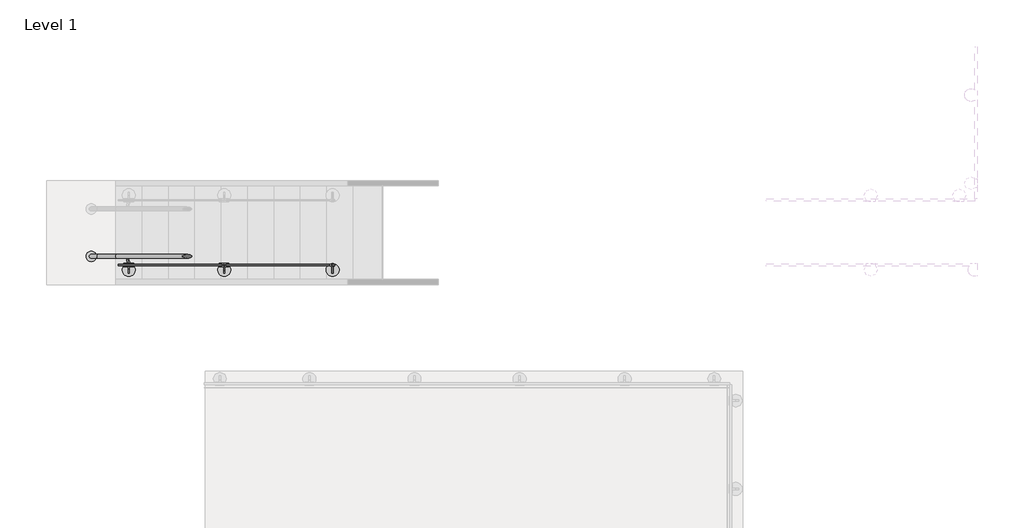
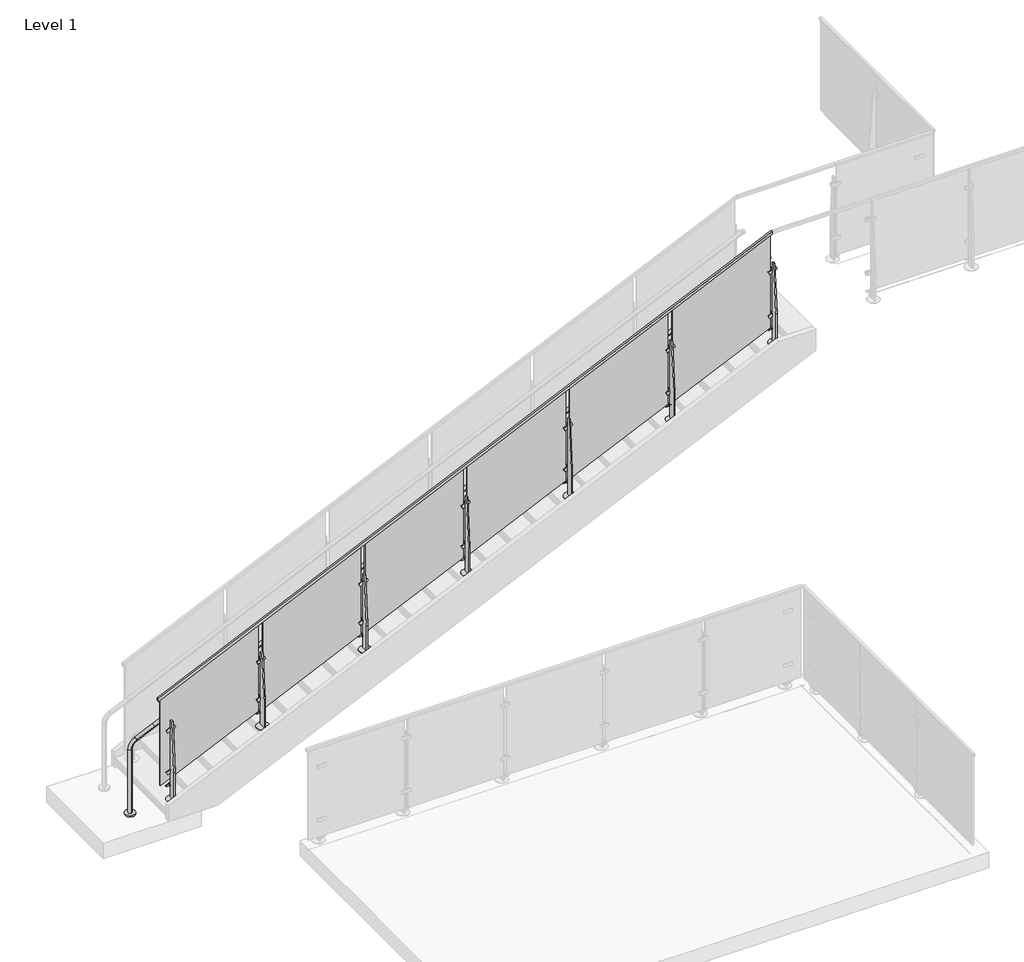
# One storey, part 2 of 37: 1 railing.
"""IFC4 building model written with IfcOpenShell, lengths in millimetres."""

from ifc_helpers import new_model, si_unit, point, frame, frame_2d, origin, place, context, project, spatial, polyline, circle_curve, ellipse_curve, trimmed, segment, composite_curve, outline, extrude, faceted_brep, element, save
from ifc_brep_helpers import plane_surface, cylinder_surface, revolved_surface, advanced_brep

model = new_model("IFC4")

# Units and contexts
model_context = context("Model", 3, world=origin())
ifc_project = project(units=[si_unit("LENGTHUNIT", "METRE", prefix="MILLI")], contexts=[model_context])

# Site, building, storey
site = spatial("IfcSite", under=ifc_project)
building = spatial("IfcBuilding", under=site)
storey = spatial("IfcBuildingStorey", under=building, Name="Level 1", Elevation=0.0)

# Railing
placement = place(None, origin())
element("IfcRailing", 1, ObjectType="VIVA-SOLO-Glass-Core Mount-Stair", at=placement, inside=storey, context=model_context, shape_type="SolidModel", body=[
    extrude(outline(composite_curve([segment(trimmed(circle_curve(frame_2d((-14041.513319, -5473.1403686)), 50.8), [point((-14041.513319, -5422.3403686))], [point((-14041.513319, -5523.9403686))], False, "CARTESIAN"), True, "CONTINUOUS"), segment(trimmed(circle_curve(frame_2d((-14041.513319, -5473.1403686)), 50.8), [point((-14041.513319, -5523.9403686))], [point((-14041.513319, -5422.3403686))], False, "CARTESIAN"), True, "CONTINUOUS")], self_intersect=False)), frame((0.0, 0.0, -1.27), z_axis=(0.0, 0.0, 1.0), x_axis=(1.0, 0.0, 0.0)), (0.0, 0.0, 1.0), 19.05),
    advanced_brep(
    [(-13794.8678976, -5454.0903686, 886.82742), (-13794.8678976, -5492.1903686, 886.82742), (-7435.9254905, -5492.1903686, 3778.351061), (-7435.9254905, -5454.0903686, 3778.351061), (-14041.513319, -5492.1903686, 17.78), (-14041.513319, -5454.0903686, 17.78), (-14041.513319, -5492.1903686, 709.2620511), (-14041.513319, -5454.0903686, 709.2620511), (-13981.9689001, -5454.0903686, 801.7492832), (-13981.9689001, -5492.1903686, 801.7492832), (-7414.4484971, -5492.1903686, 3778.351061), (-7414.4484971, -5454.0903686, 3778.351061)],
    [
        (0, 1, circle_curve(frame((-13794.8678976, -5473.1403686, 886.82742), z_axis=(0.9103074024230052, 0.0, 0.41393288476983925), x_axis=(0.0, 1.0, 0.0)), 19.05)),
        (1, 2),
        (2, 3, ellipse_curve(frame((-7435.9254905, -5473.1403686, 3778.351061), z_axis=(-0.9773196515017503, 0.0, -0.21176944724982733), x_axis=(0.21176944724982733, 0.0, -0.9773196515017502)), 19.4920873, 19.05)),
        (3, 0),
        (1, 0, circle_curve(frame((-13794.8678976, -5473.1403686, 886.82742), z_axis=(0.9103074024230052, 0.0, 0.41393288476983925), x_axis=(0.0, 1.0, 0.0)), 19.05)),
        (3, 2, ellipse_curve(frame((-7435.9254905, -5473.1403686, 3778.351061), z_axis=(-0.9773196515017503, 0.0, -0.21176944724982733), x_axis=(0.21176944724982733, 0.0, -0.9773196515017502)), 19.4920873, 19.05)),
        (4, 5, circle_curve(frame((-14041.513319, -5473.1403686, 17.78), z_axis=(0.0, 0.0, -1.0), x_axis=(0.0, 1.0, 0.0)), 19.05)),
        (5, 4, circle_curve(frame((-14041.513319, -5473.1403686, 17.78), z_axis=(0.0, 0.0, -1.0), x_axis=(0.0, 1.0, 0.0)), 19.05)),
        (4, 6),
        (6, 7, circle_curve(frame((-14041.513319, -5473.1403686, 709.2620511), z_axis=(0.0, 0.0, -1.0), x_axis=(0.0, 1.0, 0.0)), 19.05)),
        (7, 5),
        (7, 6, circle_curve(frame((-14041.513319, -5473.1403686, 709.2620511), z_axis=(0.0, 0.0, -1.0), x_axis=(0.0, 1.0, 0.0)), 19.05)),
        (8, 7, circle_curve(frame((-13939.913319, -5454.0903686, 709.2620511), z_axis=(0.0, -1.0, 0.0), x_axis=(-1.0, 0.0, 0.0)), 101.6)),
        (6, 9, circle_curve(frame((-13939.913319, -5492.1903686, 709.2620511), z_axis=(0.0, 1.0, 0.0), x_axis=(-1.0, 0.0, 0.0)), 101.6)),
        (9, 8, circle_curve(frame((-13981.9689001, -5473.1403686, 801.7492832), z_axis=(-0.9103074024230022, 0.0, -0.4139328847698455), x_axis=(0.0, 1.0, 0.0)), 19.05)),
        (8, 9, circle_curve(frame((-13981.9689001, -5473.1403686, 801.7492832), z_axis=(-0.9103074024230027, 0.0, -0.4139328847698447), x_axis=(0.0, 1.0, 0.0)), 19.05)),
        (9, 1),
        (0, 8),
        (10, 11, circle_curve(frame((-7414.4484971, -5473.1403686, 3778.351061), z_axis=(1.0, 0.0, 0.0), x_axis=(0.0, 1.0, 0.0)), 19.05)),
        (11, 10, circle_curve(frame((-7414.4484971, -5473.1403686, 3778.351061), z_axis=(1.0, 0.0, 0.0), x_axis=(0.0, 1.0, 0.0)), 19.05)),
        (2, 10),
        (11, 3),
    ],
    [
        cylinder_surface(frame((-13794.8678976, -5473.1403686, 886.82742), z_axis=(-0.9103074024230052, 0.0, -0.41393288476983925), x_axis=(0.0, 1.0, 0.0)), 19.05),
        plane_surface(frame((-14060.563319, -5511.2403686, 17.78), z_axis=(0.0, 0.0, -1.0), x_axis=(1.0, 0.0, 0.0))),
        cylinder_surface(frame((-14041.513319, -5473.1403686, 17.78), z_axis=(0.0, 0.0, -1.0), x_axis=(0.0, 1.0, 0.0)), 19.05),
        revolved_surface(trimmed(ellipse_curve(frame((-14041.513319, -5473.1403686, 709.2620511), z_axis=(0.0, 0.0, -1.0), x_axis=(0.0, 1.0, 0.0)), 19.05, 19.05), [point((-14041.513319, -5492.1903686, 709.2620511))], [point((-14041.513319, -5454.0903686, 709.2620511))], True, "CARTESIAN"), (-13939.913319, -5473.1403686, 709.2620511), (0.0, 1.0, 0.0)),
        revolved_surface(trimmed(ellipse_curve(frame((-14041.513319, -5473.1403686, 709.2620511), z_axis=(0.0, 0.0, -1.0), x_axis=(0.0, 1.0, 0.0)), 19.05, 19.05), [point((-14041.513319, -5454.0903686, 709.2620511))], [point((-14041.513319, -5492.1903686, 709.2620511))], True, "CARTESIAN"), (-13939.913319, -5473.1403686, 709.2620511), (0.0, 1.0, 0.0)),
        cylinder_surface(frame((-13981.9689001, -5473.1403686, 801.7492832), z_axis=(-0.9103074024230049, 0.0, -0.4139328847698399), x_axis=(0.0, 1.0, 0.0)), 19.05),
        plane_surface(frame((-7414.4484971, -5473.1403686, 3797.401061), z_axis=(1.0, 0.0, 0.0), x_axis=(0.0, 1.0, 0.0))),
        cylinder_surface(frame((-7440.053319, -5473.1403686, 3778.351061), z_axis=(-1.0, 0.0, 0.0), x_axis=(0.0, 1.0, 0.0)), 19.05),
    ],
    [
        (0, [[1, 2, 3, 4]]),
        (0, [[5, -4, 6, -2]]),
        (1, [[7, 8]]),
        (2, [[-7, 9, 10, 11]]),
        (2, [[-8, -11, 12, -9]]),
        (3, [[13, -10, 14, 15]]),
        (4, [[-14, -12, -13, 16]]),
        (5, [[-15, 17, -1, 18]]),
        (5, [[-16, -18, -5, -17]]),
        (6, [[19, 20]]),
        (7, [[-3, 21, -20, 22]]),
        (7, [[-6, -22, -19, -21]]),
    ],
),
    faceted_brep([(-13802.753319, -5569.9778686, 1234.3687761), (-13802.753319, -5547.7528686, 1234.3687761), (-13802.753319, -5547.7528686, 1206.4661138), (-13802.753319, -5552.5153686, 1206.4661138), (-13802.753319, -5552.5153686, 1229.1370269), (-13802.753319, -5565.2153686, 1229.1370269), (-13802.753319, -5565.2153686, 1206.4661138), (-13802.753319, -5569.9778686, 1206.4661138), (-7440.053319, -5569.9778686, 4127.601061), (-7440.053319, -5569.9778686, 4099.6983988), (-7440.053319, -5565.2153686, 4099.6983988), (-7440.053319, -5565.2153686, 4122.3693118), (-7440.053319, -5552.5153686, 4122.3693118), (-7440.053319, -5552.5153686, 4099.6983988), (-7440.053319, -5547.7528686, 4099.6983988), (-7440.053319, -5547.7528686, 4127.601061)], [[[0, 1, 2, 3, 4, 5, 6, 7]], [[8, 9, 10, 11, 12, 13, 14, 15]], [[1, 0, 8, 15]], [[2, 1, 15, 14]], [[3, 2, 14, 13]], [[4, 3, 13, 12]], [[5, 4, 12, 11]], [[6, 5, 11, 10]], [[7, 6, 10, 9]], [[0, 7, 9, 8]]]),
    extrude(outline(polyline([(4112.1609602, -7461.8952724), (3650.167781, -8477.8952724), (2617.7111027, -8477.8952724), (3079.7042819, -7461.8952724), (4112.1609602, -7461.8952724)])), frame((0.0, -5565.2153686, 0.0), z_axis=(0.0, 1.0, 0.0), x_axis=(0.0, 0.0, 1.0)), (0.0, 0.0, 1.0), 12.7),
    extrude(outline(polyline([(-12.7, 0.0), (-12.7, 3.175), (50.8, 65.0875), (61.9125, 65.0875), (61.9125, 34.925), (58.7375, 34.925), (0.0, 3.175), (0.0, 0.0), (-12.7, 0.0)])), frame((-8528.1319584, -5481.0778686, 3260.3180961), z_axis=(0.8987940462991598, 0.0, 0.4383711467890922), x_axis=(0.0, -1.0, 0.0)), (0.0, 0.0, 1.0), 12.7),
    extrude(outline(polyline([(-5574.7403686, 3315.1956802), (-5574.7403686, 2461.8461538), (-5638.2403686, 2461.8461538), (-5638.2403686, 2781.7956802), (-5600.1403686, 3315.1956802), (-5574.7403686, 3315.1956802)])), frame((-8506.853319, 0.0, 0.0), z_axis=(1.0, 0.0, 0.0), x_axis=(0.0, 1.0, 0.0)), (0.0, 0.0, 1.0), 12.7),
    extrude(outline(polyline([(0.0, -88.9), (0.0, 0.0), (9.525, 0.0), (9.525, -88.9), (0.0, -88.9)])), frame((-8453.5927817, -5542.9903686, 3223.3736751), z_axis=(-0.4383711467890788, 0.0, 0.8987940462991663), x_axis=(0.0, -1.0, 0.0)), (0.0, 0.0, 1.0), 31.75),
    extrude(outline(polyline([(0.0, -88.9), (0.0, 0.0), (9.525, 0.0), (9.525, -88.9), (0.0, -88.9)])), frame((-8453.5927817, -5565.2153686, 3223.3736751), z_axis=(-0.4383711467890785, 0.0, 0.8987940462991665), x_axis=(0.0, -1.0, 0.0)), (0.0, 0.0, 1.0), 31.75),
    extrude(outline(polyline([(0.0, -88.9), (0.0, 0.0), (9.525, 0.0), (9.525, -88.9), (0.0, -88.9)])), frame((-8453.5927817, -5565.2153686, 2757.8490612), z_axis=(-0.43837114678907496, 0.0, 0.8987940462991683), x_axis=(0.0, -1.0, 0.0)), (0.0, 0.0, 1.0), 31.75),
    extrude(outline(polyline([(0.0, -88.9), (0.0, 0.0), (9.525, 0.0), (9.525, -88.9), (0.0, -88.9)])), frame((-8453.5927817, -5542.9903686, 2757.8490612), z_axis=(-0.4383711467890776, 0.0, 0.8987940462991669), x_axis=(0.0, -1.0, 0.0)), (0.0, 0.0, 1.0), 31.75),
    extrude(outline(polyline([(2624.3603761, -8464.7413963), (2630.0677183, -8467.5250531), (2591.0965233, -8547.4278438), (2585.3891811, -8544.644187), (2585.1780228, -8495.0860419), (2624.3603761, -8464.7413963)])), frame((0.0, -5565.2153686, 0.0), z_axis=(0.0, 1.0, 0.0), x_axis=(0.0, 0.0, 1.0)), (0.0, 0.0, 1.0), 12.7),
    extrude(outline(composite_curve([segment(polyline([(0.0, 0.0), (2.8057896, 0.0)]), True, "CONTINUOUS"), segment(trimmed(circle_curve(frame_2d((26.8875079, 8.0765616)), 25.4), [point((2.8057896, 0.0))], [point((8.7901893, -9.7460941))], True, "CARTESIAN"), True, "CONTINUOUS"), segment(polyline([(8.7901893, -9.7460941), (6.4034747, -11.1240644)]), True, "CONTINUOUS"), segment(trimmed(circle_curve(frame_2d((24.5007934, 6.6985914)), 25.4), [point((6.4034747, -11.1240644))], [point((0.0, 0.0))], False, "CARTESIAN"), True, "CONTINUOUS")], self_intersect=False)), frame((-8544.0530759, -5481.177115, 3249.5048973), z_axis=(0.8987940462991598, 0.0, 0.4383711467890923), x_axis=(-0.3796405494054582, 0.5000000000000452, 0.7783784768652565)), (0.0, 0.0, 1.0), 50.8),
    extrude(outline(composite_curve([segment(trimmed(circle_curve(frame_2d((-8500.503319, -5606.4903686)), 63.5), [point((-8500.503319, -5669.9903686))], [point((-8500.503319, -5542.9903686))], False, "CARTESIAN"), True, "CONTINUOUS"), segment(trimmed(circle_curve(frame_2d((-8500.503319, -5606.4903686)), 63.5), [point((-8500.503319, -5542.9903686))], [point((-8500.503319, -5669.9903686))], False, "CARTESIAN"), True, "CONTINUOUS")], self_intersect=False)), frame((0.0, 0.0, 2461.8461538), z_axis=(0.0, 0.0, 1.0), x_axis=(1.0, 0.0, 0.0)), (0.0, 0.0, 1.0), 3.175),
    extrude(outline(composite_curve([segment(trimmed(circle_curve(frame_2d((2753.6921538, -8500.503319)), 6.35), [point((2753.6921538, -8494.153319))], [point((2753.6921538, -8506.853319))], False, "CARTESIAN"), True, "CONTINUOUS"), segment(trimmed(circle_curve(frame_2d((2753.6921538, -8500.503319)), 6.35), [point((2753.6921538, -8506.853319))], [point((2753.6921538, -8494.153319))], False, "CARTESIAN"), True, "CONTINUOUS")], self_intersect=False)), frame((0.0, -5565.2153686, 0.0), z_axis=(0.0, 1.0, 0.0), x_axis=(0.0, 0.0, 1.0)), (0.0, 0.0, 1.0), 12.7),
    extrude(outline(composite_curve([segment(trimmed(circle_curve(frame_2d((3218.1564331, -8500.503319)), 6.35), [point((3218.1564331, -8494.153319))], [point((3218.1564331, -8506.853319))], False, "CARTESIAN"), True, "CONTINUOUS"), segment(trimmed(circle_curve(frame_2d((3218.1564331, -8500.503319)), 6.35), [point((3218.1564331, -8506.853319))], [point((3218.1564331, -8494.153319))], False, "CARTESIAN"), True, "CONTINUOUS")], self_intersect=False)), frame((0.0, -5565.2153686, 0.0), z_axis=(0.0, 1.0, 0.0), x_axis=(0.0, 0.0, 1.0)), (0.0, 0.0, 1.0), 12.7),
    extrude(outline(composite_curve([segment(trimmed(circle_curve(frame_2d((2596.3730128, -8500.503319)), 11.1125), [point((2596.3730128, -8489.390819))], [point((2596.3730128, -8511.615819))], False, "CARTESIAN"), True, "CONTINUOUS"), segment(trimmed(circle_curve(frame_2d((2596.3730128, -8500.503319)), 11.1125), [point((2596.3730128, -8511.615819))], [point((2596.3730128, -8489.390819))], False, "CARTESIAN"), True, "CONTINUOUS")], self_intersect=False)), frame((0.0, -5574.7403686, 0.0), z_axis=(0.0, 1.0, 0.0), x_axis=(0.0, 0.0, 1.0)), (0.0, 0.0, 1.0), 25.4),
    extrude(outline(polyline([(3629.9555794, -8522.3452724), (3167.9624002, -9538.3452724), (2148.7880258, -9538.3452724), (2610.781205, -8522.3452724), (3629.9555794, -8522.3452724)])), frame((0.0, -5565.2153686, 0.0), z_axis=(0.0, 1.0, 0.0), x_axis=(0.0, 0.0, 1.0)), (0.0, 0.0, 1.0), 12.7),
    extrude(outline(polyline([(-12.7, 0.0), (-12.7, 3.175), (50.8, 65.0875), (61.9125, 65.0875), (61.9125, 34.925), (58.7375, 34.925), (0.0, 3.175), (0.0, 0.0), (-12.7, 0.0)])), frame((-9588.5819584, -5481.0778686, 2778.1127153), z_axis=(0.8987940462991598, 0.0, 0.4383711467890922), x_axis=(0.0, -1.0, 0.0)), (0.0, 0.0, 1.0), 12.7),
    extrude(outline(polyline([(-5574.7403686, 2832.9902994), (-5574.7403686, 1992.9230769), (-5638.2403686, 1992.9230769), (-5638.2403686, 2299.5902994), (-5600.1403686, 2832.9902994), (-5574.7403686, 2832.9902994)])), frame((-9567.303319, 0.0, 0.0), z_axis=(1.0, 0.0, 0.0), x_axis=(0.0, 1.0, 0.0)), (0.0, 0.0, 1.0), 12.7),
    extrude(outline(polyline([(0.0, -88.9), (0.0, 0.0), (9.525, 0.0), (9.525, -88.9), (0.0, -88.9)])), frame((-9514.0427817, -5542.9903686, 2741.1682943), z_axis=(-0.4383711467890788, 0.0, 0.8987940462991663), x_axis=(0.0, -1.0, 0.0)), (0.0, 0.0, 1.0), 31.75),
    extrude(outline(polyline([(0.0, -88.9), (0.0, 0.0), (9.525, 0.0), (9.525, -88.9), (0.0, -88.9)])), frame((-9514.0427817, -5565.2153686, 2741.1682943), z_axis=(-0.4383711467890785, 0.0, 0.8987940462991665), x_axis=(0.0, -1.0, 0.0)), (0.0, 0.0, 1.0), 31.75),
    extrude(outline(polyline([(0.0, -88.9), (0.0, 0.0), (9.525, 0.0), (9.525, -88.9), (0.0, -88.9)])), frame((-9514.0427817, -5565.2153686, 2288.9259842), z_axis=(-0.43837114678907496, 0.0, 0.8987940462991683), x_axis=(0.0, -1.0, 0.0)), (0.0, 0.0, 1.0), 31.75),
    extrude(outline(polyline([(0.0, -88.9), (0.0, 0.0), (9.525, 0.0), (9.525, -88.9), (0.0, -88.9)])), frame((-9514.0427817, -5542.9903686, 2288.9259842), z_axis=(-0.4383711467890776, 0.0, 0.8987940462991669), x_axis=(0.0, -1.0, 0.0)), (0.0, 0.0, 1.0), 31.75),
    extrude(outline(polyline([(2155.4372992, -9525.1913963), (2161.1446414, -9527.9750531), (2122.1734464, -9607.8778438), (2116.4661042, -9605.094187), (2116.2549459, -9555.5360419), (2155.4372992, -9525.1913963)])), frame((0.0, -5565.2153686, 0.0), z_axis=(0.0, 1.0, 0.0), x_axis=(0.0, 0.0, 1.0)), (0.0, 0.0, 1.0), 12.7),
    extrude(outline(composite_curve([segment(polyline([(0.0, 0.0), (2.8057896, 0.0)]), True, "CONTINUOUS"), segment(trimmed(circle_curve(frame_2d((26.8875079, 8.0765616)), 25.4), [point((2.8057896, 0.0))], [point((8.7901892, -9.7460941))], True, "CARTESIAN"), True, "CONTINUOUS"), segment(polyline([(8.7901892, -9.7460941), (6.4034747, -11.1240644)]), True, "CONTINUOUS"), segment(trimmed(circle_curve(frame_2d((24.5007933, 6.6985913)), 25.4), [point((6.4034747, -11.1240644))], [point((0.0, 0.0))], False, "CARTESIAN"), True, "CONTINUOUS")], self_intersect=False)), frame((-9604.5030759, -5481.177115, 2767.2995165), z_axis=(0.8987940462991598, 0.0, 0.4383711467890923), x_axis=(-0.3796405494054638, 0.5000000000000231, 0.7783784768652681)), (0.0, 0.0, 1.0), 50.8),
    extrude(outline(composite_curve([segment(trimmed(circle_curve(frame_2d((-9560.953319, -5606.4903686)), 63.5), [point((-9560.953319, -5669.9903686))], [point((-9560.953319, -5542.9903686))], False, "CARTESIAN"), True, "CONTINUOUS"), segment(trimmed(circle_curve(frame_2d((-9560.953319, -5606.4903686)), 63.5), [point((-9560.953319, -5542.9903686))], [point((-9560.953319, -5669.9903686))], False, "CARTESIAN"), True, "CONTINUOUS")], self_intersect=False)), frame((0.0, 0.0, 1992.9230769), z_axis=(0.0, 0.0, 1.0), x_axis=(1.0, 0.0, 0.0)), (0.0, 0.0, 1.0), 3.175),
    extrude(outline(composite_curve([segment(trimmed(circle_curve(frame_2d((2284.7690769, -9560.953319)), 6.35), [point((2284.7690769, -9554.603319))], [point((2284.7690769, -9567.303319))], False, "CARTESIAN"), True, "CONTINUOUS"), segment(trimmed(circle_curve(frame_2d((2284.7690769, -9560.953319)), 6.35), [point((2284.7690769, -9567.303319))], [point((2284.7690769, -9554.603319))], False, "CARTESIAN"), True, "CONTINUOUS")], self_intersect=False)), frame((0.0, -5565.2153686, 0.0), z_axis=(0.0, 1.0, 0.0), x_axis=(0.0, 0.0, 1.0)), (0.0, 0.0, 1.0), 12.7),
    extrude(outline(composite_curve([segment(trimmed(circle_curve(frame_2d((2735.9510523, -9560.953319)), 6.35), [point((2735.9510523, -9554.603319))], [point((2735.9510523, -9567.303319))], False, "CARTESIAN"), True, "CONTINUOUS"), segment(trimmed(circle_curve(frame_2d((2735.9510523, -9560.953319)), 6.35), [point((2735.9510523, -9567.303319))], [point((2735.9510523, -9554.603319))], False, "CARTESIAN"), True, "CONTINUOUS")], self_intersect=False)), frame((0.0, -5565.2153686, 0.0), z_axis=(0.0, 1.0, 0.0), x_axis=(0.0, 0.0, 1.0)), (0.0, 0.0, 1.0), 12.7),
    extrude(outline(composite_curve([segment(trimmed(circle_curve(frame_2d((2127.4499358, -9560.953319)), 11.1125), [point((2127.4499358, -9549.840819))], [point((2127.4499358, -9572.065819))], False, "CARTESIAN"), True, "CONTINUOUS"), segment(trimmed(circle_curve(frame_2d((2127.4499358, -9560.953319)), 11.1125), [point((2127.4499358, -9572.065819))], [point((2127.4499358, -9549.840819))], False, "CARTESIAN"), True, "CONTINUOUS")], self_intersect=False)), frame((0.0, -5574.7403686, 0.0), z_axis=(0.0, 1.0, 0.0), x_axis=(0.0, 0.0, 1.0)), (0.0, 0.0, 1.0), 25.4),
    extrude(outline(polyline([(3147.7501986, -9582.7952724), (2685.7570193, -10598.7952724), (1679.8649488, -10598.7952724), (2141.8581281, -9582.7952724), (3147.7501986, -9582.7952724)])), frame((0.0, -5565.2153686, 0.0), z_axis=(0.0, 1.0, 0.0), x_axis=(0.0, 0.0, 1.0)), (0.0, 0.0, 1.0), 12.7),
    extrude(outline(polyline([(-12.7, 0.0), (-12.7, 3.175), (50.8, 65.0875), (61.9125, 65.0875), (61.9125, 34.925), (58.7375, 34.925), (0.0, 3.175), (0.0, 0.0), (-12.7, 0.0)])), frame((-10649.0319584, -5481.0778686, 2295.9073345), z_axis=(0.8987940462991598, 0.0, 0.4383711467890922), x_axis=(0.0, -1.0, 0.0)), (0.0, 0.0, 1.0), 12.7),
    extrude(outline(polyline([(-5574.7403686, 2350.7849185), (-5574.7403686, 1524.0), (-5638.2403686, 1524.0), (-5638.2403686, 1817.3849185), (-5600.1403686, 2350.7849185), (-5574.7403686, 2350.7849185)])), frame((-10627.753319, 0.0, 0.0), z_axis=(1.0, 0.0, 0.0), x_axis=(0.0, 1.0, 0.0)), (0.0, 0.0, 1.0), 12.7),
    extrude(outline(polyline([(0.0, -88.9), (0.0, 0.0), (9.525, 0.0), (9.525, -88.9), (0.0, -88.9)])), frame((-10574.4927817, -5542.9903686, 2258.9629135), z_axis=(-0.4383711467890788, 0.0, 0.8987940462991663), x_axis=(0.0, -1.0, 0.0)), (0.0, 0.0, 1.0), 31.75),
    extrude(outline(polyline([(0.0, -88.9), (0.0, 0.0), (9.525, 0.0), (9.525, -88.9), (0.0, -88.9)])), frame((-10574.4927817, -5565.2153686, 2258.9629135), z_axis=(-0.4383711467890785, 0.0, 0.8987940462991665), x_axis=(0.0, -1.0, 0.0)), (0.0, 0.0, 1.0), 31.75),
    extrude(outline(polyline([(0.0, -88.9), (0.0, 0.0), (9.525, 0.0), (9.525, -88.9), (0.0, -88.9)])), frame((-10574.4927817, -5565.2153686, 1820.0029073), z_axis=(-0.43837114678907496, 0.0, 0.8987940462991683), x_axis=(0.0, -1.0, 0.0)), (0.0, 0.0, 1.0), 31.75),
    extrude(outline(polyline([(0.0, -88.9), (0.0, 0.0), (9.525, 0.0), (9.525, -88.9), (0.0, -88.9)])), frame((-10574.4927817, -5542.9903686, 1820.0029073), z_axis=(-0.4383711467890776, 0.0, 0.8987940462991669), x_axis=(0.0, -1.0, 0.0)), (0.0, 0.0, 1.0), 31.75),
    extrude(outline(polyline([(1686.5142223, -10585.6413963), (1692.2215644, -10588.4250531), (1653.2503695, -10668.3278438), (1647.5430273, -10665.544187), (1647.331869, -10615.9860419), (1686.5142223, -10585.6413963)])), frame((0.0, -5565.2153686, 0.0), z_axis=(0.0, 1.0, 0.0), x_axis=(0.0, 0.0, 1.0)), (0.0, 0.0, 1.0), 12.7),
    extrude(outline(composite_curve([segment(polyline([(0.0, 0.0), (2.8057896, 0.0)]), True, "CONTINUOUS"), segment(trimmed(circle_curve(frame_2d((26.8875079, 8.0765616)), 25.4), [point((2.8057896, 0.0))], [point((8.7901892, -9.7460941))], True, "CARTESIAN"), True, "CONTINUOUS"), segment(polyline([(8.7901892, -9.7460941), (6.4034747, -11.1240644)]), True, "CONTINUOUS"), segment(trimmed(circle_curve(frame_2d((24.5007933, 6.6985913)), 25.4), [point((6.4034747, -11.1240644))], [point((0.0, 0.0))], False, "CARTESIAN"), True, "CONTINUOUS")], self_intersect=False)), frame((-10664.9530759, -5481.177115, 2285.0941357), z_axis=(0.8987940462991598, 0.0, 0.4383711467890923), x_axis=(-0.3796405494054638, 0.5000000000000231, 0.7783784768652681)), (0.0, 0.0, 1.0), 50.8),
    extrude(outline(composite_curve([segment(trimmed(circle_curve(frame_2d((-10621.403319, -5606.4903686)), 63.5), [point((-10621.403319, -5669.9903686))], [point((-10621.403319, -5542.9903686))], False, "CARTESIAN"), True, "CONTINUOUS"), segment(trimmed(circle_curve(frame_2d((-10621.403319, -5606.4903686)), 63.5), [point((-10621.403319, -5542.9903686))], [point((-10621.403319, -5669.9903686))], False, "CARTESIAN"), True, "CONTINUOUS")], self_intersect=False)), frame((0.0, 0.0, 1524.0), z_axis=(0.0, 0.0, 1.0), x_axis=(1.0, 0.0, 0.0)), (0.0, 0.0, 1.0), 3.175),
    extrude(outline(composite_curve([segment(trimmed(circle_curve(frame_2d((1815.846, -10621.403319)), 6.35), [point((1815.846, -10615.053319))], [point((1815.846, -10627.753319))], False, "CARTESIAN"), True, "CONTINUOUS"), segment(trimmed(circle_curve(frame_2d((1815.846, -10621.403319)), 6.35), [point((1815.846, -10627.753319))], [point((1815.846, -10615.053319))], False, "CARTESIAN"), True, "CONTINUOUS")], self_intersect=False)), frame((0.0, -5565.2153686, 0.0), z_axis=(0.0, 1.0, 0.0), x_axis=(0.0, 0.0, 1.0)), (0.0, 0.0, 1.0), 12.7),
    extrude(outline(composite_curve([segment(trimmed(circle_curve(frame_2d((2253.7456715, -10621.403319)), 6.35), [point((2253.7456715, -10615.053319))], [point((2253.7456715, -10627.753319))], False, "CARTESIAN"), True, "CONTINUOUS"), segment(trimmed(circle_curve(frame_2d((2253.7456715, -10621.403319)), 6.35), [point((2253.7456715, -10627.753319))], [point((2253.7456715, -10615.053319))], False, "CARTESIAN"), True, "CONTINUOUS")], self_intersect=False)), frame((0.0, -5565.2153686, 0.0), z_axis=(0.0, 1.0, 0.0), x_axis=(0.0, 0.0, 1.0)), (0.0, 0.0, 1.0), 12.7),
    extrude(outline(composite_curve([segment(trimmed(circle_curve(frame_2d((1658.5268589, -10621.403319)), 11.1125), [point((1658.5268589, -10610.290819))], [point((1658.5268589, -10632.515819))], False, "CARTESIAN"), True, "CONTINUOUS"), segment(trimmed(circle_curve(frame_2d((1658.5268589, -10621.403319)), 11.1125), [point((1658.5268589, -10632.515819))], [point((1658.5268589, -10610.290819))], False, "CARTESIAN"), True, "CONTINUOUS")], self_intersect=False)), frame((0.0, -5574.7403686, 0.0), z_axis=(0.0, 1.0, 0.0), x_axis=(0.0, 0.0, 1.0)), (0.0, 0.0, 1.0), 25.4),
    extrude(outline(polyline([(2665.5448177, -10643.2452724), (2203.5516385, -11659.2452724), (1210.9418719, -11659.2452724), (1672.9350512, -10643.2452724), (2665.5448177, -10643.2452724)])), frame((0.0, -5565.2153686, 0.0), z_axis=(0.0, 1.0, 0.0), x_axis=(0.0, 0.0, 1.0)), (0.0, 0.0, 1.0), 12.7),
    extrude(outline(polyline([(-12.7, 0.0), (-12.7, 3.175), (50.8, 65.0875), (61.9125, 65.0875), (61.9125, 34.9249999), (58.7375, 34.9249999), (0.0, 3.175), (0.0, 0.0), (-12.7, 0.0)])), frame((-11709.4819584, -5481.0778686, 1813.7019536), z_axis=(0.8987940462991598, 0.0, 0.4383711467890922), x_axis=(0.0, -1.0, 0.0)), (0.0, 0.0, 1.0), 12.7),
    extrude(outline(polyline([(-5574.7403686, 1868.5795377), (-5574.7403686, 1055.0769231), (-5638.2403686, 1055.0769231), (-5638.2403686, 1335.1795377), (-5600.1403686, 1868.5795377), (-5574.7403686, 1868.5795377)])), frame((-11688.203319, 0.0, 0.0), z_axis=(1.0, 0.0, 0.0), x_axis=(0.0, 1.0, 0.0)), (0.0, 0.0, 1.0), 12.7),
    extrude(outline(polyline([(0.0, -88.9), (0.0, 0.0), (9.525, 0.0), (9.525, -88.9), (0.0, -88.9)])), frame((-11634.9427817, -5542.9903686, 1776.7575326), z_axis=(-0.4383711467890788, 0.0, 0.8987940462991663), x_axis=(0.0, -1.0, 0.0)), (0.0, 0.0, 1.0), 31.75),
    extrude(outline(polyline([(0.0, -88.9), (0.0, 0.0), (9.525, 0.0), (9.525, -88.9), (0.0, -88.9)])), frame((-11634.9427817, -5565.2153686, 1776.7575326), z_axis=(-0.4383711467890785, 0.0, 0.8987940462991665), x_axis=(0.0, -1.0, 0.0)), (0.0, 0.0, 1.0), 31.75),
    extrude(outline(polyline([(0.0, -88.9), (0.0, 0.0), (9.525, 0.0), (9.525, -88.9), (0.0, -88.9)])), frame((-11634.9427817, -5565.2153686, 1351.0798304), z_axis=(-0.43837114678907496, 0.0, 0.8987940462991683), x_axis=(0.0, -1.0, 0.0)), (0.0, 0.0, 1.0), 31.75),
    extrude(outline(polyline([(0.0, -88.9), (0.0, 0.0), (9.525, 0.0), (9.525, -88.9), (0.0, -88.9)])), frame((-11634.9427817, -5542.9903686, 1351.0798304), z_axis=(-0.4383711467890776, 0.0, 0.8987940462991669), x_axis=(0.0, -1.0, 0.0)), (0.0, 0.0, 1.0), 31.75),
    extrude(outline(polyline([(1217.5911453, -11646.0913963), (1223.2984875, -11648.8750531), (1184.3272926, -11728.7778438), (1178.6199504, -11725.994187), (1178.4087921, -11676.4360419), (1217.5911453, -11646.0913963)])), frame((0.0, -5565.2153686, 0.0), z_axis=(0.0, 1.0, 0.0), x_axis=(0.0, 0.0, 1.0)), (0.0, 0.0, 1.0), 12.7),
    extrude(outline(composite_curve([segment(polyline([(0.0, 0.0), (2.8057896, 0.0)]), True, "CONTINUOUS"), segment(trimmed(circle_curve(frame_2d((26.8875078, 8.0765616)), 25.4), [point((2.8057896, 0.0))], [point((8.7901892, -9.7460941))], True, "CARTESIAN"), True, "CONTINUOUS"), segment(polyline([(8.7901892, -9.7460941), (6.4034746, -11.1240644)]), True, "CONTINUOUS"), segment(trimmed(circle_curve(frame_2d((24.5007933, 6.6985913)), 25.4), [point((6.4034746, -11.1240644))], [point((0.0, 0.0))], False, "CARTESIAN"), True, "CONTINUOUS")], self_intersect=False)), frame((-11725.4030759, -5481.177115, 1802.8887549), z_axis=(0.8987940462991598, 0.0, 0.4383711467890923), x_axis=(-0.3796405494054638, 0.5000000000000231, 0.7783784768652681)), (0.0, 0.0, 1.0), 50.8),
    extrude(outline(composite_curve([segment(trimmed(circle_curve(frame_2d((-11681.853319, -5606.4903686)), 63.5), [point((-11681.853319, -5669.9903686))], [point((-11681.853319, -5542.9903686))], False, "CARTESIAN"), True, "CONTINUOUS"), segment(trimmed(circle_curve(frame_2d((-11681.853319, -5606.4903686)), 63.5), [point((-11681.853319, -5542.9903686))], [point((-11681.853319, -5669.9903686))], False, "CARTESIAN"), True, "CONTINUOUS")], self_intersect=False)), frame((0.0, 0.0, 1055.0769231), z_axis=(0.0, 0.0, 1.0), x_axis=(1.0, 0.0, 0.0)), (0.0, 0.0, 1.0), 3.175),
    extrude(outline(composite_curve([segment(trimmed(circle_curve(frame_2d((1346.9229231, -11681.853319)), 6.35), [point((1346.9229231, -11675.503319))], [point((1346.9229231, -11688.203319))], False, "CARTESIAN"), True, "CONTINUOUS"), segment(trimmed(circle_curve(frame_2d((1346.9229231, -11681.853319)), 6.35), [point((1346.9229231, -11688.203319))], [point((1346.9229231, -11675.503319))], False, "CARTESIAN"), True, "CONTINUOUS")], self_intersect=False)), frame((0.0, -5565.2153686, 0.0), z_axis=(0.0, 1.0, 0.0), x_axis=(0.0, 0.0, 1.0)), (0.0, 0.0, 1.0), 12.7),
    extrude(outline(composite_curve([segment(trimmed(circle_curve(frame_2d((1771.5402906, -11681.853319)), 6.35), [point((1771.5402906, -11675.503319))], [point((1771.5402906, -11688.203319))], False, "CARTESIAN"), True, "CONTINUOUS"), segment(trimmed(circle_curve(frame_2d((1771.5402906, -11681.853319)), 6.35), [point((1771.5402906, -11688.203319))], [point((1771.5402906, -11675.503319))], False, "CARTESIAN"), True, "CONTINUOUS")], self_intersect=False)), frame((0.0, -5565.2153686, 0.0), z_axis=(0.0, 1.0, 0.0), x_axis=(0.0, 0.0, 1.0)), (0.0, 0.0, 1.0), 12.7),
    extrude(outline(composite_curve([segment(trimmed(circle_curve(frame_2d((1189.603782, -11681.853319)), 11.1125), [point((1189.603782, -11670.740819))], [point((1189.603782, -11692.965819))], False, "CARTESIAN"), True, "CONTINUOUS"), segment(trimmed(circle_curve(frame_2d((1189.603782, -11681.853319)), 11.1125), [point((1189.603782, -11692.965819))], [point((1189.603782, -11670.740819))], False, "CARTESIAN"), True, "CONTINUOUS")], self_intersect=False)), frame((0.0, -5574.7403686, 0.0), z_axis=(0.0, 1.0, 0.0), x_axis=(0.0, 0.0, 1.0)), (0.0, 0.0, 1.0), 25.4),
    extrude(outline(polyline([(2183.3394369, -11703.6952724), (1721.3462577, -12719.6952724), (742.018795, -12719.6952724), (1204.0119742, -11703.6952724), (2183.3394369, -11703.6952724)])), frame((0.0, -5565.2153686, 0.0), z_axis=(0.0, 1.0, 0.0), x_axis=(0.0, 0.0, 1.0)), (0.0, 0.0, 1.0), 12.7),
    extrude(outline(polyline([(-12.7, 0.0), (-12.7, 3.175), (50.8, 65.0875), (61.9125, 65.0875), (61.9125, 34.925), (58.7375, 34.925), (0.0, 3.175), (0.0, 0.0), (-12.7, 0.0)])), frame((-12769.9319584, -5481.0778686, 1331.4965728), z_axis=(0.8987940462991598, 0.0, 0.4383711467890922), x_axis=(0.0, -1.0, 0.0)), (0.0, 0.0, 1.0), 12.7),
    extrude(outline(polyline([(-5574.7403686, 1386.3741569), (-5574.7403686, 586.1538462), (-5638.2403686, 586.1538462), (-5638.2403686, 852.9741569), (-5600.1403686, 1386.3741569), (-5574.7403686, 1386.3741569)])), frame((-12748.653319, 0.0, 0.0), z_axis=(1.0, 0.0, 0.0), x_axis=(0.0, 1.0, 0.0)), (0.0, 0.0, 1.0), 12.7),
    extrude(outline(polyline([(0.0, -88.9), (0.0, 0.0), (9.525, 0.0), (9.525, -88.9), (0.0, -88.9)])), frame((-12695.3927817, -5542.9903686, 1294.5521518), z_axis=(-0.4383711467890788, 0.0, 0.8987940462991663), x_axis=(0.0, -1.0, 0.0)), (0.0, 0.0, 1.0), 31.75),
    extrude(outline(polyline([(0.0, -88.9), (0.0, 0.0), (9.525, 0.0), (9.525, -88.9), (0.0, -88.9)])), frame((-12695.3927817, -5565.2153686, 1294.5521518), z_axis=(-0.4383711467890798, 0.0, 0.8987940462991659), x_axis=(0.0, -1.0, 0.0)), (0.0, 0.0, 1.0), 31.75),
    extrude(outline(polyline([(0.0, -88.9), (0.0, 0.0), (9.525, 0.0), (9.525, -88.9), (0.0, -88.9)])), frame((-12695.3927817, -5565.2153686, 882.1567535), z_axis=(-0.43837114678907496, 0.0, 0.8987940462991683), x_axis=(0.0, -1.0, 0.0)), (0.0, 0.0, 1.0), 31.75),
    extrude(outline(polyline([(0.0, -88.9), (0.0, 0.0), (9.525, 0.0), (9.525, -88.9), (0.0, -88.9)])), frame((-12695.3927817, -5542.9903686, 882.1567535), z_axis=(-0.4383711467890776, 0.0, 0.8987940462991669), x_axis=(0.0, -1.0, 0.0)), (0.0, 0.0, 1.0), 31.75),
    extrude(outline(polyline([(748.6680684, -12706.5413963), (754.3754106, -12709.3250531), (715.4042157, -12789.2278438), (709.6968735, -12786.444187), (709.4857151, -12736.8860419), (748.6680684, -12706.5413963)])), frame((0.0, -5565.2153686, 0.0), z_axis=(0.0, 1.0, 0.0), x_axis=(0.0, 0.0, 1.0)), (0.0, 0.0, 1.0), 12.7),
    extrude(outline(composite_curve([segment(polyline([(0.0, 0.0), (2.8057896, 0.0)]), True, "CONTINUOUS"), segment(trimmed(circle_curve(frame_2d((26.8875079, 8.0765616)), 25.4), [point((2.8057896, 0.0))], [point((8.7901893, -9.7460941))], True, "CARTESIAN"), True, "CONTINUOUS"), segment(polyline([(8.7901893, -9.7460941), (6.4034747, -11.1240644)]), True, "CONTINUOUS"), segment(trimmed(circle_curve(frame_2d((24.5007934, 6.6985914)), 25.4), [point((6.4034747, -11.1240644))], [point((0.0, 0.0))], False, "CARTESIAN"), True, "CONTINUOUS")], self_intersect=False)), frame((-12785.8530759, -5481.177115, 1320.683374), z_axis=(0.8987940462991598, 0.0, 0.4383711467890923), x_axis=(-0.3796405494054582, 0.5000000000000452, 0.7783784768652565)), (0.0, 0.0, 1.0), 50.8),
    extrude(outline(composite_curve([segment(trimmed(circle_curve(frame_2d((-12742.303319, -5606.4903686)), 63.5), [point((-12742.303319, -5669.9903686))], [point((-12742.303319, -5542.9903686))], False, "CARTESIAN"), True, "CONTINUOUS"), segment(trimmed(circle_curve(frame_2d((-12742.303319, -5606.4903686)), 63.5), [point((-12742.303319, -5542.9903686))], [point((-12742.303319, -5669.9903686))], False, "CARTESIAN"), True, "CONTINUOUS")], self_intersect=False)), frame((0.0, 0.0, 586.1538462), z_axis=(0.0, 0.0, 1.0), x_axis=(1.0, 0.0, 0.0)), (0.0, 0.0, 1.0), 3.175),
    extrude(outline(composite_curve([segment(trimmed(circle_curve(frame_2d((877.9998462, -12742.303319)), 6.35), [point((877.9998462, -12735.953319))], [point((877.9998462, -12748.653319))], False, "CARTESIAN"), True, "CONTINUOUS"), segment(trimmed(circle_curve(frame_2d((877.9998462, -12742.303319)), 6.35), [point((877.9998462, -12748.653319))], [point((877.9998462, -12735.953319))], False, "CARTESIAN"), True, "CONTINUOUS")], self_intersect=False)), frame((0.0, -5565.2153686, 0.0), z_axis=(0.0, 1.0, 0.0), x_axis=(0.0, 0.0, 1.0)), (0.0, 0.0, 1.0), 12.7),
    extrude(outline(composite_curve([segment(trimmed(circle_curve(frame_2d((1289.3349098, -12742.303319)), 6.35), [point((1289.3349098, -12735.953319))], [point((1289.3349098, -12748.653319))], False, "CARTESIAN"), True, "CONTINUOUS"), segment(trimmed(circle_curve(frame_2d((1289.3349098, -12742.303319)), 6.35), [point((1289.3349098, -12748.653319))], [point((1289.3349098, -12735.953319))], False, "CARTESIAN"), True, "CONTINUOUS")], self_intersect=False)), frame((0.0, -5565.2153686, 0.0), z_axis=(0.0, 1.0, 0.0), x_axis=(0.0, 0.0, 1.0)), (0.0, 0.0, 1.0), 12.7),
    extrude(outline(composite_curve([segment(trimmed(circle_curve(frame_2d((720.6807051, -12742.303319)), 11.1125), [point((720.6807051, -12731.190819))], [point((720.6807051, -12753.415819))], False, "CARTESIAN"), True, "CONTINUOUS"), segment(trimmed(circle_curve(frame_2d((720.6807051, -12742.303319)), 11.1125), [point((720.6807051, -12753.415819))], [point((720.6807051, -12731.190819))], False, "CARTESIAN"), True, "CONTINUOUS")], self_intersect=False)), frame((0.0, -5574.7403686, 0.0), z_axis=(0.0, 1.0, 0.0), x_axis=(0.0, 0.0, 1.0)), (0.0, 0.0, 1.0), 25.4),
    extrude(outline(polyline([(1701.1340561, -12764.1452724), (1239.1408768, -13780.1452724), (273.0957181, -13780.1452724), (735.0888973, -12764.1452724), (1701.1340561, -12764.1452724)])), frame((0.0, -5565.2153686, 0.0), z_axis=(0.0, 1.0, 0.0), x_axis=(0.0, 0.0, 1.0)), (0.0, 0.0, 1.0), 12.7),
    extrude(outline(polyline([(-12.7, 0.0), (-12.7, 3.175), (50.8, 65.0875), (61.9125, 65.0875), (61.9125, 34.9249999), (58.7375, 34.9249999), (0.0, 3.175), (0.0, 0.0), (-12.7, 0.0)])), frame((-7467.6819584, -5481.0778686, 3742.5234769), z_axis=(0.8987940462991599, 0.0, 0.4383711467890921), x_axis=(0.0, -1.0, 0.0)), (0.0, 0.0, 1.0), 12.7),
    extrude(outline(polyline([(-5574.7403686, 3797.401061), (-5574.7403686, 2930.7692308), (-5638.2403686, 2930.7692308), (-5638.2403686, 3264.001061), (-5600.1403686, 3797.401061), (-5574.7403686, 3797.401061)])), frame((-7446.403319, 0.0, 0.0), z_axis=(1.0, 0.0, 0.0), x_axis=(0.0, 1.0, 0.0)), (0.0, 0.0, 1.0), 12.7),
    extrude(outline(polyline([(0.0, -88.9), (0.0, 0.0), (9.525, 0.0), (9.525, -88.9), (0.0, -88.9)])), frame((-7393.1427817, -5542.9903686, 3705.5790559), z_axis=(-0.4383711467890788, 0.0, 0.8987940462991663), x_axis=(0.0, -1.0, 0.0)), (0.0, 0.0, 1.0), 31.75),
    extrude(outline(polyline([(0.0, -88.9), (0.0, 0.0), (9.525, 0.0), (9.525, -88.9), (0.0, -88.9)])), frame((-7393.1427817, -5565.2153686, 3705.5790559), z_axis=(-0.4383711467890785, 0.0, 0.8987940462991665), x_axis=(0.0, -1.0, 0.0)), (0.0, 0.0, 1.0), 31.75),
    extrude(outline(polyline([(0.0, -88.9), (0.0, 0.0), (9.525, 0.0), (9.525, -88.9), (0.0, -88.9)])), frame((-7393.1427817, -5565.2153686, 3226.7721381), z_axis=(-0.4383711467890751, 0.0, 0.8987940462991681), x_axis=(0.0, -1.0, 0.0)), (0.0, 0.0, 1.0), 31.75),
    extrude(outline(polyline([(0.0, -88.9), (0.0, 0.0), (9.525, 0.0), (9.525, -88.9), (0.0, -88.9)])), frame((-7393.1427817, -5542.9903686, 3226.7721381), z_axis=(-0.4383711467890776, 0.0, 0.8987940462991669), x_axis=(0.0, -1.0, 0.0)), (0.0, 0.0, 1.0), 31.75),
    extrude(outline(polyline([(3093.283453, -7404.2913963), (3098.9907952, -7407.0750531), (3060.0196003, -7486.9778438), (3054.3122581, -7484.194187), (3054.1010997, -7434.6360419), (3093.283453, -7404.2913963)])), frame((0.0, -5565.2153686, 0.0), z_axis=(0.0, 1.0, 0.0), x_axis=(0.0, 0.0, 1.0)), (0.0, 0.0, 1.0), 12.7),
    extrude(outline(composite_curve([segment(polyline([(0.0, 0.0), (2.8057896, 0.0)]), True, "CONTINUOUS"), segment(trimmed(circle_curve(frame_2d((26.8875078, 8.0765616)), 25.4), [point((2.8057896, 0.0))], [point((8.7901892, -9.7460941))], True, "CARTESIAN"), True, "CONTINUOUS"), segment(polyline([(8.7901892, -9.7460941), (6.4034746, -11.1240644)]), True, "CONTINUOUS"), segment(trimmed(circle_curve(frame_2d((24.5007933, 6.6985913)), 25.4), [point((6.4034746, -11.1240644))], [point((0.0, 0.0))], False, "CARTESIAN"), True, "CONTINUOUS")], self_intersect=False)), frame((-7483.6030759, -5481.177115, 3731.7102782), z_axis=(0.8987940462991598, 0.0, 0.4383711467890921), x_axis=(-0.379640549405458, 0.5000000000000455, 0.7783784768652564)), (0.0, 0.0, 1.0), 50.8),
    extrude(outline(composite_curve([segment(trimmed(circle_curve(frame_2d((-7440.053319, -5606.4903686)), 63.5), [point((-7440.053319, -5669.9903686))], [point((-7440.053319, -5542.9903686))], False, "CARTESIAN"), True, "CONTINUOUS"), segment(trimmed(circle_curve(frame_2d((-7440.053319, -5606.4903686)), 63.5), [point((-7440.053319, -5542.9903686))], [point((-7440.053319, -5669.9903686))], False, "CARTESIAN"), True, "CONTINUOUS")], self_intersect=False)), frame((0.0, 0.0, 2930.7692308), z_axis=(0.0, 0.0, 1.0), x_axis=(1.0, 0.0, 0.0)), (0.0, 0.0, 1.0), 3.175),
    extrude(outline(composite_curve([segment(trimmed(circle_curve(frame_2d((3222.6152308, -7440.053319)), 6.35), [point((3222.6152308, -7433.703319))], [point((3222.6152308, -7446.403319))], False, "CARTESIAN"), True, "CONTINUOUS"), segment(trimmed(circle_curve(frame_2d((3222.6152308, -7440.053319)), 6.35), [point((3222.6152308, -7446.403319))], [point((3222.6152308, -7433.703319))], False, "CARTESIAN"), True, "CONTINUOUS")], self_intersect=False)), frame((0.0, -5565.2153686, 0.0), z_axis=(0.0, 1.0, 0.0), x_axis=(0.0, 0.0, 1.0)), (0.0, 0.0, 1.0), 12.7),
    extrude(outline(composite_curve([segment(trimmed(circle_curve(frame_2d((3700.3618139, -7440.053319)), 6.35), [point((3700.3618139, -7433.703319))], [point((3700.3618139, -7446.403319))], False, "CARTESIAN"), True, "CONTINUOUS"), segment(trimmed(circle_curve(frame_2d((3700.3618139, -7440.053319)), 6.35), [point((3700.3618139, -7446.403319))], [point((3700.3618139, -7433.703319))], False, "CARTESIAN"), True, "CONTINUOUS")], self_intersect=False)), frame((0.0, -5565.2153686, 0.0), z_axis=(0.0, 1.0, 0.0), x_axis=(0.0, 0.0, 1.0)), (0.0, 0.0, 1.0), 12.7),
    extrude(outline(composite_curve([segment(trimmed(circle_curve(frame_2d((3065.2960897, -7440.053319)), 11.1125), [point((3065.2960897, -7428.940819))], [point((3065.2960897, -7451.165819))], False, "CARTESIAN"), True, "CONTINUOUS"), segment(trimmed(circle_curve(frame_2d((3065.2960897, -7440.053319)), 11.1125), [point((3065.2960897, -7451.165819))], [point((3065.2960897, -7428.940819))], False, "CARTESIAN"), True, "CONTINUOUS")], self_intersect=False)), frame((0.0, -5574.7403686, 0.0), z_axis=(0.0, 1.0, 0.0), x_axis=(0.0, 0.0, 1.0)), (0.0, 0.0, 1.0), 25.4),
    extrude(outline(polyline([(-12.7, 0.0), (-12.7, 3.175), (50.8, 65.0875), (61.9125, 65.0875), (61.9125, 34.925), (58.7375, 34.925), (0.0, 3.175), (0.0, 0.0), (-12.7, 0.0)])), frame((-13703.3819584, -5481.0778686, 907.0403394), z_axis=(0.8987940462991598, 0.0, 0.4383711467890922), x_axis=(0.0, -1.0, 0.0)), (0.0, 0.0, 1.0), 12.7),
    extrude(outline(polyline([(-5574.7403686, 961.9179235), (-5574.7403686, 117.2307692), (-5638.2403686, 117.2307692), (-5638.2403686, 428.5179235), (-5600.1403686, 961.9179235), (-5574.7403686, 961.9179235)])), frame((-13682.103319, 0.0, 0.0), z_axis=(1.0, 0.0, 0.0), x_axis=(0.0, 1.0, 0.0)), (0.0, 0.0, 1.0), 12.7),
    extrude(outline(polyline([(0.0, -88.9), (0.0, 0.0), (9.525, 0.0), (9.525, -88.9), (0.0, -88.9)])), frame((-13628.8427817, -5542.9903686, 870.0959184), z_axis=(-0.4383711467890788, 0.0, 0.8987940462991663), x_axis=(0.0, -1.0, 0.0)), (0.0, 0.0, 1.0), 31.75),
    extrude(outline(polyline([(0.0, -88.9), (0.0, 0.0), (9.525, 0.0), (9.525, -88.9), (0.0, -88.9)])), frame((-13628.8427817, -5565.2153686, 870.0959184), z_axis=(-0.4383711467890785, 0.0, 0.8987940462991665), x_axis=(0.0, -1.0, 0.0)), (0.0, 0.0, 1.0), 31.75),
    extrude(outline(polyline([(0.0, -88.9), (0.0, 0.0), (9.525, 0.0), (9.525, -88.9), (0.0, -88.9)])), frame((-13628.8427817, -5565.2153686, 413.2336765), z_axis=(-0.43837114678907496, 0.0, 0.8987940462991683), x_axis=(0.0, -1.0, 0.0)), (0.0, 0.0, 1.0), 31.75),
    extrude(outline(polyline([(0.0, -88.9), (0.0, 0.0), (9.525, 0.0), (9.525, -88.9), (0.0, -88.9)])), frame((-13628.8427817, -5542.9903686, 413.2336765), z_axis=(-0.4383711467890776, 0.0, 0.8987940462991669), x_axis=(0.0, -1.0, 0.0)), (0.0, 0.0, 1.0), 31.75),
    extrude(outline(polyline([(279.7449915, -13639.9913963), (285.4523337, -13642.7750531), (246.4811387, -13722.6778438), (240.7737965, -13719.894187), (240.5626382, -13670.3360419), (279.7449915, -13639.9913963)])), frame((0.0, -5565.2153686, 0.0), z_axis=(0.0, 1.0, 0.0), x_axis=(0.0, 0.0, 1.0)), (0.0, 0.0, 1.0), 12.7),
    extrude(outline(composite_curve([segment(polyline([(0.0, 0.0), (2.8057896, 0.0)]), True, "CONTINUOUS"), segment(trimmed(circle_curve(frame_2d((26.8875079, 8.0765616)), 25.4), [point((2.8057896, 0.0))], [point((8.7901892, -9.7460941))], True, "CARTESIAN"), True, "CONTINUOUS"), segment(polyline([(8.7901892, -9.7460941), (6.4034747, -11.1240644)]), True, "CONTINUOUS"), segment(trimmed(circle_curve(frame_2d((24.5007933, 6.6985913)), 25.4), [point((6.4034747, -11.1240644))], [point((0.0, 0.0))], False, "CARTESIAN"), True, "CONTINUOUS")], self_intersect=False)), frame((-13719.3030759, -5481.177115, 896.2271406), z_axis=(0.8987940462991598, 0.0, 0.4383711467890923), x_axis=(-0.3796405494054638, 0.5000000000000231, 0.7783784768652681)), (0.0, 0.0, 1.0), 50.8),
    extrude(outline(composite_curve([segment(trimmed(circle_curve(frame_2d((-13675.753319, -5606.4903686)), 63.5), [point((-13675.753319, -5669.9903686))], [point((-13675.753319, -5542.9903686))], False, "CARTESIAN"), True, "CONTINUOUS"), segment(trimmed(circle_curve(frame_2d((-13675.753319, -5606.4903686)), 63.5), [point((-13675.753319, -5542.9903686))], [point((-13675.753319, -5669.9903686))], False, "CARTESIAN"), True, "CONTINUOUS")], self_intersect=False)), frame((0.0, 0.0, 117.2307692), z_axis=(0.0, 0.0, 1.0), x_axis=(1.0, 0.0, 0.0)), (0.0, 0.0, 1.0), 3.175),
    extrude(outline(composite_curve([segment(trimmed(circle_curve(frame_2d((409.0767692, -13675.753319)), 6.35), [point((409.0767692, -13669.403319))], [point((409.0767692, -13682.103319))], False, "CARTESIAN"), True, "CONTINUOUS"), segment(trimmed(circle_curve(frame_2d((409.0767692, -13675.753319)), 6.35), [point((409.0767692, -13682.103319))], [point((409.0767692, -13669.403319))], False, "CARTESIAN"), True, "CONTINUOUS")], self_intersect=False)), frame((0.0, -5565.2153686, 0.0), z_axis=(0.0, 1.0, 0.0), x_axis=(0.0, 0.0, 1.0)), (0.0, 0.0, 1.0), 12.7),
    extrude(outline(composite_curve([segment(trimmed(circle_curve(frame_2d((864.8786764, -13675.753319)), 6.35), [point((864.8786764, -13669.403319))], [point((864.8786764, -13682.103319))], False, "CARTESIAN"), True, "CONTINUOUS"), segment(trimmed(circle_curve(frame_2d((864.8786764, -13675.753319)), 6.35), [point((864.8786764, -13682.103319))], [point((864.8786764, -13669.403319))], False, "CARTESIAN"), True, "CONTINUOUS")], self_intersect=False)), frame((0.0, -5565.2153686, 0.0), z_axis=(0.0, 1.0, 0.0), x_axis=(0.0, 0.0, 1.0)), (0.0, 0.0, 1.0), 12.7),
    extrude(outline(composite_curve([segment(trimmed(circle_curve(frame_2d((251.7576281, -13675.753319)), 11.1125), [point((251.7576281, -13664.640819))], [point((251.7576281, -13686.865819))], False, "CARTESIAN"), True, "CONTINUOUS"), segment(trimmed(circle_curve(frame_2d((251.7576281, -13675.753319)), 11.1125), [point((251.7576281, -13686.865819))], [point((251.7576281, -13664.640819))], False, "CARTESIAN"), True, "CONTINUOUS")], self_intersect=False)), frame((0.0, -5574.7403686, 0.0), z_axis=(0.0, 1.0, 0.0), x_axis=(0.0, 0.0, 1.0)), (0.0, 0.0, 1.0), 25.4),
])

save(model, "model.ifc")
